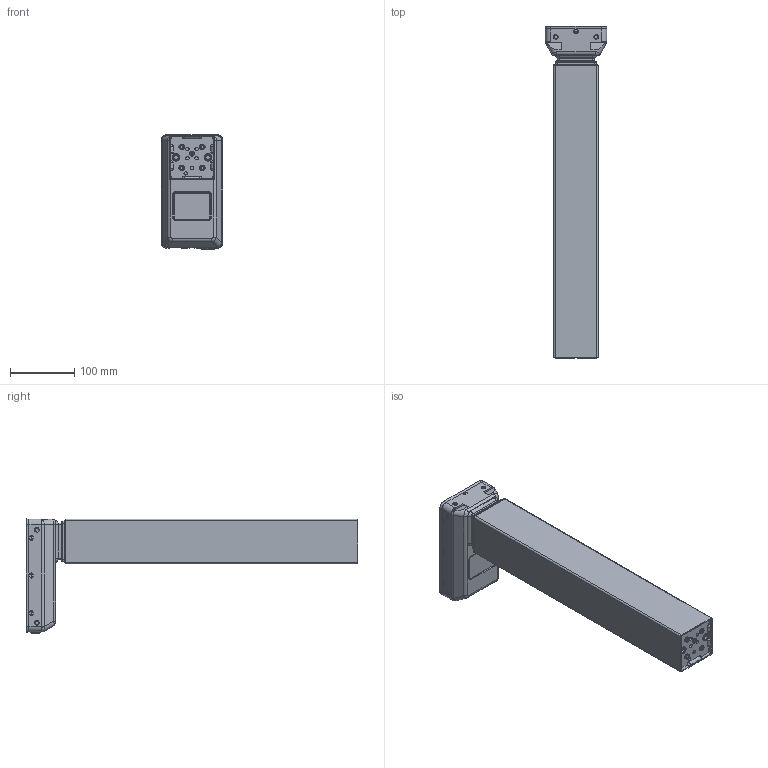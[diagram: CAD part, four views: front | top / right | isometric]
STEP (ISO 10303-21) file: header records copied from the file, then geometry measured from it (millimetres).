
FILE_DESCRIPTION((''),'2;1');
FILE_NAME('1029W7914_ASM','2025-05-16T13:27:57',('jak'),(''),'CREO PARAMETRIC BY PTC INC, 2022024','CREO PARAMETRIC BY PTC INC, 2022024','');
FILE_SCHEMA(('AUTOMOTIVE_DESIGN { 1 0 10303 214 1 1 1 1 }'));
Length unit declared in the file: millimetre
Products named in the file (5): 1029W7912; 1041W7906-A-00-1; 1029W4078; 1029W4079; 1029W7914_ASM
Assembly tree (4 placements, depth 2):
  1029W7914_ASM
    1029W7912
    1041W7906-A-00-1
    1029W4078
    1029W4079
Bounding box: 96.5 x 518 x 178.6 mm (x, y, z)
Volume: 2989973.8 mm3; surface area: 207909.4 mm2
Topology: 4 solids, 4 shells, 988 faces, 2466 edges, 1525 vertices
Faces by surface type: plane 393, cylinder 380, torus 94, bspline 72, cone 34, sphere 15
Entity records: 40194 total; most frequent: CARTESIAN_POINT 12284, ORIENTED_EDGE 4928, DIRECTION 4790, EDGE_CURVE 2464, AXIS2_PLACEMENT_3D 1740, VERTEX_POINT 1525, VECTOR 1310, LINE 1310
